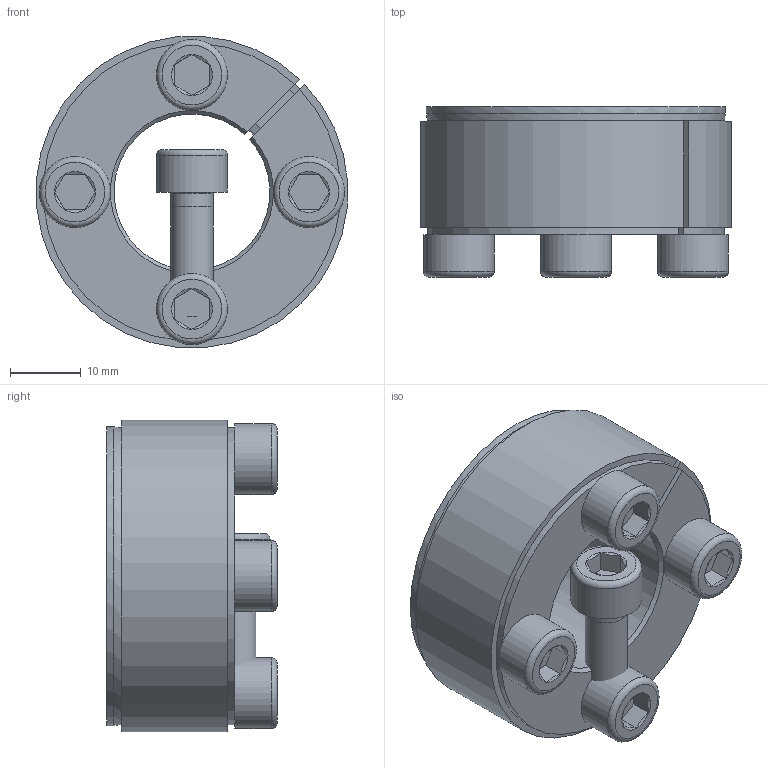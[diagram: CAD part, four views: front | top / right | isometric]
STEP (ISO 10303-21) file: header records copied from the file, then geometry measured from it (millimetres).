
FILE_DESCRIPTION( ( 'Unknown' ), '1' );
FILE_NAME( 'C:/Dokumente und Einstellungen/Sven/Desktop/homepage/cad - homepage/KBS52/KBS 52 - 22 x 44.stp', 'Unknown', ( 'Unknown' ), ( 'Unknown' ), 'XStep 1.0', 'Unknown', ' ' );
FILE_SCHEMA( ( 'automotive_design' ) );
Length unit declared in the file: millimetre
Products named in the file (3): Assem1; KBS 52 - 22 x 44; ISO EN DIN 4762 M6x18
Bounding box: 43.87 x 24 x 43.87 mm (x, y, z)
Volume: 40327.8 mm3; surface area: 18215.8 mm2
Topology: 7 solids, 7 shells, 173 faces, 349 edges, 208 vertices
Faces by surface type: plane 86, cone 41, cylinder 36, torus 10
Full cylindrical faces by diameter (mm): 5 x5, 6 x18, 10 x5, 42.175 x2
Entity records: 1549 total; most frequent: CARTESIAN_POINT 259, DIRECTION 231, ORIENTED_EDGE 180, AXIS2_PLACEMENT_3D 94, EDGE_CURVE 90, EDGE_LOOP 76, VERTEX_POINT 62, FACE_OUTER_BOUND 60
